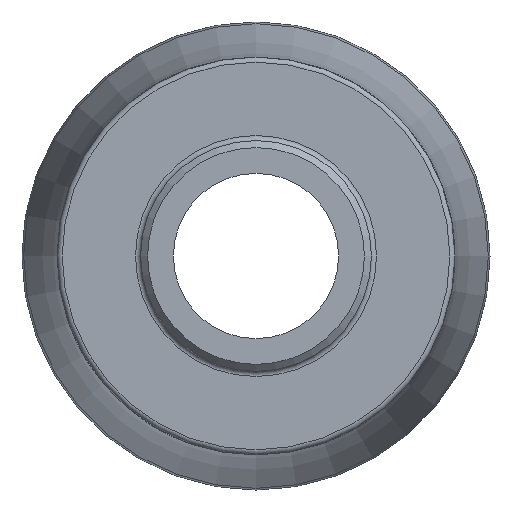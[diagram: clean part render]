
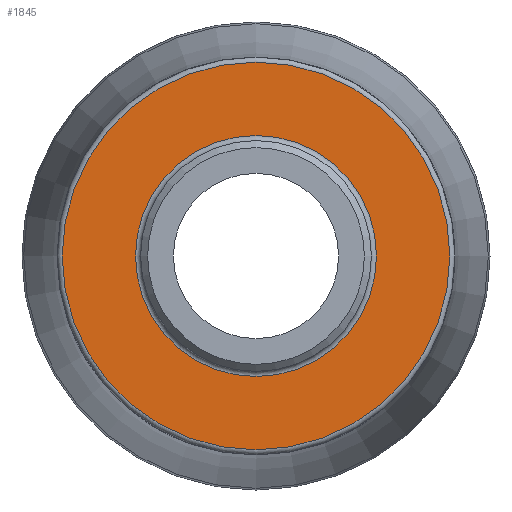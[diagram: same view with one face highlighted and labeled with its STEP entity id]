
A CAD part, left-side view. The second image highlights one B-rep face of the part: STEP entity #1845.
In plain terms, the highlighted planar face has unit normal (-1, 0, 0).
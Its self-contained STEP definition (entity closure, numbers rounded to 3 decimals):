
#194=FACE_BOUND('',#408,.T.);
#208=PLANE('',#2054);
#294=FACE_OUTER_BOUND('',#407,.T.);
#407=EDGE_LOOP('',(#1458,#1459));
#408=EDGE_LOOP('',(#1460,#1461));
#744=CIRCLE('',#2052,21.88);
#745=CIRCLE('',#2053,21.88);
#746=CIRCLE('',#2055,35.2);
#747=CIRCLE('',#2056,35.2);
#881=VERTEX_POINT('',#3251);
#882=VERTEX_POINT('',#3253);
#883=VERTEX_POINT('',#3257);
#884=VERTEX_POINT('',#3258);
#1092=EDGE_CURVE('',#881,#882,#744,.T.);
#1093=EDGE_CURVE('',#882,#881,#745,.T.);
#1094=EDGE_CURVE('',#883,#884,#746,.T.);
#1095=EDGE_CURVE('',#884,#883,#747,.T.);
#1458=ORIENTED_EDGE('',*,*,#1094,.F.);
#1459=ORIENTED_EDGE('',*,*,#1095,.F.);
#1460=ORIENTED_EDGE('',*,*,#1093,.F.);
#1461=ORIENTED_EDGE('',*,*,#1092,.F.);
#1845=ADVANCED_FACE('',(#294,#194),#208,.T.);
#2052=AXIS2_PLACEMENT_3D('',#3254,#2427,#2428);
#2053=AXIS2_PLACEMENT_3D('',#3255,#2429,#2430);
#2054=AXIS2_PLACEMENT_3D('',#3256,#2431,#2432);
#2055=AXIS2_PLACEMENT_3D('',#3259,#2433,#2434);
#2056=AXIS2_PLACEMENT_3D('',#3260,#2435,#2436);
#2427=DIRECTION('center_axis',(-1.,0.,0.));
#2428=DIRECTION('ref_axis',(0.,-1.,0.));
#2429=DIRECTION('center_axis',(-1.,0.,0.));
#2430=DIRECTION('ref_axis',(0.,-1.,0.));
#2431=DIRECTION('center_axis',(-1.,0.,0.));
#2432=DIRECTION('ref_axis',(0.,0.,1.));
#2433=DIRECTION('center_axis',(1.,0.,0.));
#2434=DIRECTION('ref_axis',(0.,-1.,0.));
#2435=DIRECTION('center_axis',(1.,0.,0.));
#2436=DIRECTION('ref_axis',(0.,-1.,0.));
#3251=CARTESIAN_POINT('',(22.,0.,21.88));
#3253=CARTESIAN_POINT('',(22.,21.88,0.));
#3254=CARTESIAN_POINT('Origin',(22.,0.,0.));
#3255=CARTESIAN_POINT('Origin',(22.,0.,0.));
#3256=CARTESIAN_POINT('Origin',(22.,36.125,0.));
#3257=CARTESIAN_POINT('',(22.,35.2,0.));
#3258=CARTESIAN_POINT('',(22.,0.,35.2));
#3259=CARTESIAN_POINT('Origin',(22.,0.,0.));
#3260=CARTESIAN_POINT('Origin',(22.,0.,0.));
